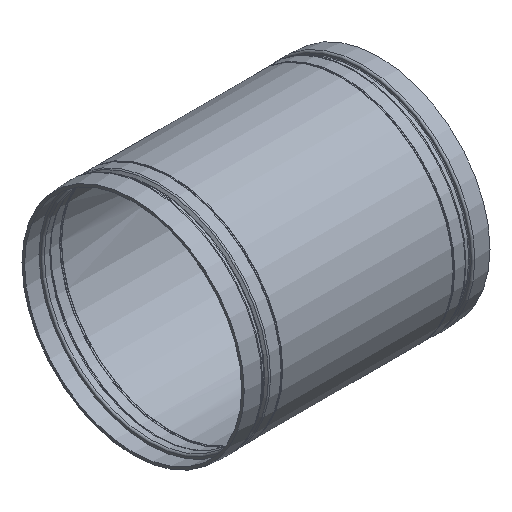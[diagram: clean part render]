
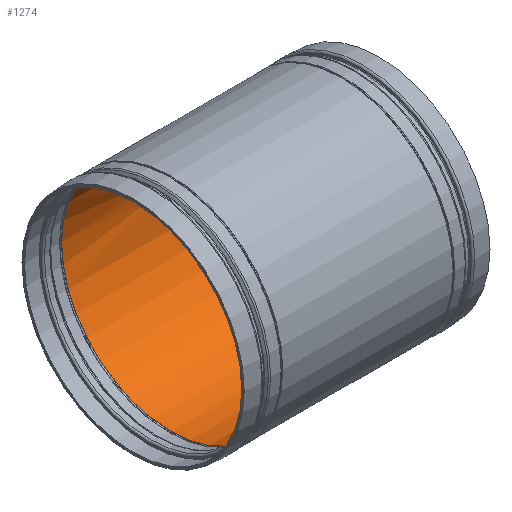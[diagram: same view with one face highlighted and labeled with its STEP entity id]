
A CAD part, isometric view. The second image highlights one B-rep face of the part: STEP entity #1274.
In plain terms, the highlighted cylindrical face has radius 133.477 mm (diameter 266.954 mm), a full revolution.
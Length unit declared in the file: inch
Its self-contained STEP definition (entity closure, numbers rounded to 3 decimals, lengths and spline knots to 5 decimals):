
#81=FACE_BOUND('',#171,.T.);
#82=FACE_BOUND('',#172,.T.);
#108=FACE_OUTER_BOUND('',#170,.T.);
#170=EDGE_LOOP('',(#817,#818,#819,#820,#821,#822,#823,#824));
#171=EDGE_LOOP('',(#825,#826));
#172=EDGE_LOOP('',(#827,#828));
#237=B_SPLINE_CURVE_WITH_KNOTS('',3,(#2093,#2094,#2095,#2096,#2097,#2098,
#2099,#2100,#2101,#2102),.UNSPECIFIED.,.F.,.F.,(4,2,2,2,4),(0.,0.40203,
0.80407,1.2061,1.60813),.UNSPECIFIED.);
#238=B_SPLINE_CURVE_WITH_KNOTS('',3,(#2103,#2104,#2105,#2106,#2107,#2108,
#2109,#2110,#2111,#2112,#2113,#2114,#2115,#2116,#2117,#2118,#2119,#2120,
#2121,#2122,#2123,#2124,#2125,#2126,#2127,#2128),.UNSPECIFIED.,.F.,.F.,
(4,2,2,2,2,2,2,2,2,2,2,2,4),(1.60813,2.01017,2.4122,
2.81423,3.21627,3.6183,4.02033,4.42237,
4.8244,5.22643,5.62847,6.0305,6.43253),
 .UNSPECIFIED.);
#241=B_SPLINE_CURVE_WITH_KNOTS('',3,(#2227,#2228,#2229,#2230,#2231,#2232,
#2233,#2234,#2235,#2236,#2237,#2238,#2239,#2240,#2241,#2242,#2243,#2244,
#2245,#2246,#2247,#2248,#2249,#2250,#2251,#2252),.UNSPECIFIED.,.F.,.F.,
(4,2,2,2,2,2,2,2,2,2,2,2,4),(0.,0.40203,0.80407,1.2061,
1.60813,2.01017,2.4122,2.81423,3.21627,
3.6183,4.02033,4.42237,4.8244),
 .UNSPECIFIED.);
#242=B_SPLINE_CURVE_WITH_KNOTS('',3,(#2253,#2254,#2255,#2256,#2257,#2258,
#2259,#2260,#2261,#2262),.UNSPECIFIED.,.F.,.F.,(4,2,2,2,4),(4.8244,
5.22643,5.62847,6.0305,6.43253),
 .UNSPECIFIED.);
#248=LINE('',#2218,#272);
#272=VECTOR('',#1615,5.255);
#297=CIRCLE('',#1359,5.255);
#298=CIRCLE('',#1360,5.255);
#299=CIRCLE('',#1361,5.255);
#300=CIRCLE('',#1362,5.255);
#301=CIRCLE('',#1363,5.255);
#302=CIRCLE('',#1364,5.255);
#458=VERTEX_POINT('',#2090);
#459=VERTEX_POINT('',#2092);
#465=VERTEX_POINT('',#2212);
#466=VERTEX_POINT('',#2213);
#467=VERTEX_POINT('',#2215);
#468=VERTEX_POINT('',#2217);
#469=VERTEX_POINT('',#2219);
#470=VERTEX_POINT('',#2221);
#471=VERTEX_POINT('',#2225);
#472=VERTEX_POINT('',#2226);
#605=EDGE_CURVE('',#459,#458,#237,.T.);
#606=EDGE_CURVE('',#458,#459,#238,.T.);
#614=EDGE_CURVE('',#465,#466,#297,.T.);
#615=EDGE_CURVE('',#466,#467,#298,.T.);
#616=EDGE_CURVE('',#467,#468,#248,.T.);
#617=EDGE_CURVE('',#469,#468,#299,.T.);
#618=EDGE_CURVE('',#470,#469,#300,.T.);
#619=EDGE_CURVE('',#468,#470,#301,.T.);
#620=EDGE_CURVE('',#467,#465,#302,.T.);
#621=EDGE_CURVE('',#471,#472,#241,.T.);
#622=EDGE_CURVE('',#472,#471,#242,.T.);
#817=ORIENTED_EDGE('',*,*,#614,.T.);
#818=ORIENTED_EDGE('',*,*,#615,.T.);
#819=ORIENTED_EDGE('',*,*,#616,.T.);
#820=ORIENTED_EDGE('',*,*,#617,.F.);
#821=ORIENTED_EDGE('',*,*,#618,.F.);
#822=ORIENTED_EDGE('',*,*,#619,.F.);
#823=ORIENTED_EDGE('',*,*,#616,.F.);
#824=ORIENTED_EDGE('',*,*,#620,.T.);
#825=ORIENTED_EDGE('',*,*,#605,.T.);
#826=ORIENTED_EDGE('',*,*,#606,.T.);
#827=ORIENTED_EDGE('',*,*,#621,.T.);
#828=ORIENTED_EDGE('',*,*,#622,.T.);
#1194=CYLINDRICAL_SURFACE('',#1358,5.255);
#1274=ADVANCED_FACE('',(#108,#81,#82),#1194,.F.);
#1358=AXIS2_PLACEMENT_3D('',#2211,#1609,#1610);
#1359=AXIS2_PLACEMENT_3D('',#2214,#1611,#1612);
#1360=AXIS2_PLACEMENT_3D('',#2216,#1613,#1614);
#1361=AXIS2_PLACEMENT_3D('',#2220,#1616,#1617);
#1362=AXIS2_PLACEMENT_3D('',#2222,#1618,#1619);
#1363=AXIS2_PLACEMENT_3D('',#2223,#1620,#1621);
#1364=AXIS2_PLACEMENT_3D('',#2224,#1622,#1623);
#1609=DIRECTION('center_axis',(1.,0.,0.));
#1610=DIRECTION('ref_axis',(0.,1.,0.));
#1611=DIRECTION('center_axis',(1.,0.,0.));
#1612=DIRECTION('ref_axis',(0.,0.,-1.));
#1613=DIRECTION('center_axis',(1.,0.,0.));
#1614=DIRECTION('ref_axis',(0.,0.,-1.));
#1615=DIRECTION('',(-1.,0.,0.));
#1616=DIRECTION('center_axis',(1.,0.,0.));
#1617=DIRECTION('ref_axis',(0.,0.,-1.));
#1618=DIRECTION('center_axis',(1.,0.,0.));
#1619=DIRECTION('ref_axis',(0.,0.,-1.));
#1620=DIRECTION('center_axis',(1.,0.,0.));
#1621=DIRECTION('ref_axis',(0.,0.,-1.));
#1622=DIRECTION('center_axis',(1.,0.,0.));
#1623=DIRECTION('ref_axis',(0.,0.,-1.));
#2090=CARTESIAN_POINT('',(1.54,0.,-5.255));
#2092=CARTESIAN_POINT('',(1.96,-0.42,-5.23819));
#2093=CARTESIAN_POINT('Ctrl Pts',(1.96,-0.42,-5.23819));
#2094=CARTESIAN_POINT('Ctrl Pts',(1.90724,-0.42,-5.23819));
#2095=CARTESIAN_POINT('Ctrl Pts',(1.85098,-0.40945,-5.23907));
#2096=CARTESIAN_POINT('Ctrl Pts',(1.74751,-0.36658,-5.24224));
#2097=CARTESIAN_POINT('Ctrl Pts',(1.70029,-0.33426,-5.24449));
#2098=CARTESIAN_POINT('Ctrl Pts',(1.62574,-0.25971,-5.24871));
#2099=CARTESIAN_POINT('Ctrl Pts',(1.59342,-0.21249,-5.25096));
#2100=CARTESIAN_POINT('Ctrl Pts',(1.55055,-0.10902,-5.25412));
#2101=CARTESIAN_POINT('Ctrl Pts',(1.54,-0.05276,-5.255));
#2102=CARTESIAN_POINT('Ctrl Pts',(1.54,0.,-5.255));
#2103=CARTESIAN_POINT('Ctrl Pts',(1.54,0.,-5.255));
#2104=CARTESIAN_POINT('Ctrl Pts',(1.54,0.05276,-5.255));
#2105=CARTESIAN_POINT('Ctrl Pts',(1.55055,0.10902,-5.25412));
#2106=CARTESIAN_POINT('Ctrl Pts',(1.59342,0.21249,-5.25096));
#2107=CARTESIAN_POINT('Ctrl Pts',(1.62574,0.25971,-5.24871));
#2108=CARTESIAN_POINT('Ctrl Pts',(1.70029,0.33426,-5.24449));
#2109=CARTESIAN_POINT('Ctrl Pts',(1.74751,0.36658,-5.24224));
#2110=CARTESIAN_POINT('Ctrl Pts',(1.85098,0.40945,-5.23907));
#2111=CARTESIAN_POINT('Ctrl Pts',(1.90724,0.42,-5.23819));
#2112=CARTESIAN_POINT('Ctrl Pts',(2.01276,0.42,-5.23819));
#2113=CARTESIAN_POINT('Ctrl Pts',(2.06902,0.40945,-5.23907));
#2114=CARTESIAN_POINT('Ctrl Pts',(2.17249,0.36658,-5.24224));
#2115=CARTESIAN_POINT('Ctrl Pts',(2.21971,0.33426,-5.24449));
#2116=CARTESIAN_POINT('Ctrl Pts',(2.29426,0.25971,-5.24871));
#2117=CARTESIAN_POINT('Ctrl Pts',(2.32658,0.21249,-5.25096));
#2118=CARTESIAN_POINT('Ctrl Pts',(2.36945,0.10902,-5.25412));
#2119=CARTESIAN_POINT('Ctrl Pts',(2.38,0.05276,-5.255));
#2120=CARTESIAN_POINT('Ctrl Pts',(2.38,-0.05276,-5.255));
#2121=CARTESIAN_POINT('Ctrl Pts',(2.36945,-0.10902,-5.25412));
#2122=CARTESIAN_POINT('Ctrl Pts',(2.32658,-0.21249,-5.25096));
#2123=CARTESIAN_POINT('Ctrl Pts',(2.29426,-0.25971,-5.24871));
#2124=CARTESIAN_POINT('Ctrl Pts',(2.21971,-0.33426,-5.24449));
#2125=CARTESIAN_POINT('Ctrl Pts',(2.17249,-0.36658,-5.24224));
#2126=CARTESIAN_POINT('Ctrl Pts',(2.06902,-0.40945,-5.23907));
#2127=CARTESIAN_POINT('Ctrl Pts',(2.01276,-0.42,-5.23819));
#2128=CARTESIAN_POINT('Ctrl Pts',(1.96,-0.42,-5.23819));
#2211=CARTESIAN_POINT('Origin',(-2.03963,0.,
0.));
#2212=CARTESIAN_POINT('',(4.07927,5.255,0.));
#2213=CARTESIAN_POINT('',(4.07927,0.,5.255));
#2214=CARTESIAN_POINT('Origin',(4.07927,0.,0.));
#2215=CARTESIAN_POINT('',(4.07927,-5.255,0.));
#2216=CARTESIAN_POINT('Origin',(4.07927,0.,0.));
#2217=CARTESIAN_POINT('',(-4.07927,-5.255,0.));
#2218=CARTESIAN_POINT('',(-2.03963,-5.255,0.));
#2219=CARTESIAN_POINT('',(-4.07927,0.,5.255));
#2220=CARTESIAN_POINT('Origin',(-4.07927,0.,
0.));
#2221=CARTESIAN_POINT('',(-4.07927,5.255,0.));
#2222=CARTESIAN_POINT('Origin',(-4.07927,0.,
0.));
#2223=CARTESIAN_POINT('Origin',(-4.07927,0.,
0.));
#2224=CARTESIAN_POINT('Origin',(4.07927,0.,0.));
#2225=CARTESIAN_POINT('',(-0.01,5.23819,-0.42));
#2226=CARTESIAN_POINT('',(0.41,5.255,0.));
#2227=CARTESIAN_POINT('Ctrl Pts',(-0.01,5.23819,
-0.42));
#2228=CARTESIAN_POINT('Ctrl Pts',(-0.06276,5.23819,
-0.42));
#2229=CARTESIAN_POINT('Ctrl Pts',(-0.11902,5.23907,-0.40945));
#2230=CARTESIAN_POINT('Ctrl Pts',(-0.22249,5.24224,-0.36658));
#2231=CARTESIAN_POINT('Ctrl Pts',(-0.26971,5.24449,-0.33426));
#2232=CARTESIAN_POINT('Ctrl Pts',(-0.34426,5.24871,-0.25971));
#2233=CARTESIAN_POINT('Ctrl Pts',(-0.37658,5.25096,-0.21249));
#2234=CARTESIAN_POINT('Ctrl Pts',(-0.41945,5.25412,-0.10902));
#2235=CARTESIAN_POINT('Ctrl Pts',(-0.43,5.255,-0.05276));
#2236=CARTESIAN_POINT('Ctrl Pts',(-0.43,5.255,0.05276));
#2237=CARTESIAN_POINT('Ctrl Pts',(-0.41945,5.25412,0.10902));
#2238=CARTESIAN_POINT('Ctrl Pts',(-0.37658,5.25096,0.21249));
#2239=CARTESIAN_POINT('Ctrl Pts',(-0.34426,5.24871,0.25971));
#2240=CARTESIAN_POINT('Ctrl Pts',(-0.26971,5.24449,0.33426));
#2241=CARTESIAN_POINT('Ctrl Pts',(-0.22249,5.24224,0.36658));
#2242=CARTESIAN_POINT('Ctrl Pts',(-0.11902,5.23907,0.40945));
#2243=CARTESIAN_POINT('Ctrl Pts',(-0.06276,5.23819,
0.42));
#2244=CARTESIAN_POINT('Ctrl Pts',(0.04276,5.23819,0.42));
#2245=CARTESIAN_POINT('Ctrl Pts',(0.09902,5.23907,0.40945));
#2246=CARTESIAN_POINT('Ctrl Pts',(0.20249,5.24224,0.36658));
#2247=CARTESIAN_POINT('Ctrl Pts',(0.24971,5.24449,0.33426));
#2248=CARTESIAN_POINT('Ctrl Pts',(0.32426,5.24871,0.25971));
#2249=CARTESIAN_POINT('Ctrl Pts',(0.35658,5.25096,0.21249));
#2250=CARTESIAN_POINT('Ctrl Pts',(0.39945,5.25412,0.10902));
#2251=CARTESIAN_POINT('Ctrl Pts',(0.41,5.255,0.05276));
#2252=CARTESIAN_POINT('Ctrl Pts',(0.41,5.255,0.));
#2253=CARTESIAN_POINT('Ctrl Pts',(0.41,5.255,0.));
#2254=CARTESIAN_POINT('Ctrl Pts',(0.41,5.255,-0.05276));
#2255=CARTESIAN_POINT('Ctrl Pts',(0.39945,5.25412,-0.10902));
#2256=CARTESIAN_POINT('Ctrl Pts',(0.35658,5.25096,-0.21249));
#2257=CARTESIAN_POINT('Ctrl Pts',(0.32426,5.24871,-0.25971));
#2258=CARTESIAN_POINT('Ctrl Pts',(0.24971,5.24449,-0.33426));
#2259=CARTESIAN_POINT('Ctrl Pts',(0.20249,5.24224,-0.36658));
#2260=CARTESIAN_POINT('Ctrl Pts',(0.09902,5.23907,-0.40945));
#2261=CARTESIAN_POINT('Ctrl Pts',(0.04276,5.23819,-0.42));
#2262=CARTESIAN_POINT('Ctrl Pts',(-0.01,5.23819,
-0.42));
